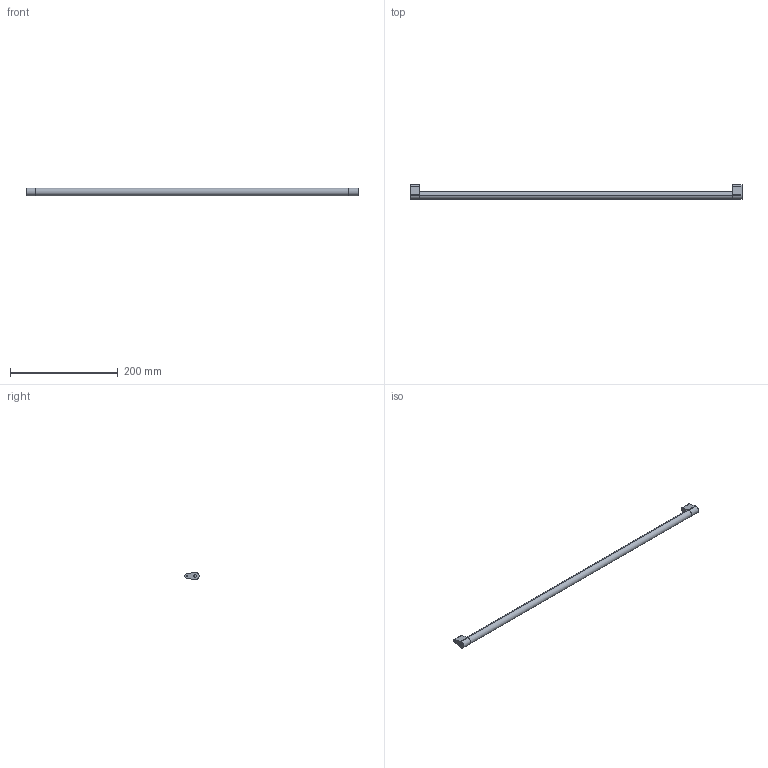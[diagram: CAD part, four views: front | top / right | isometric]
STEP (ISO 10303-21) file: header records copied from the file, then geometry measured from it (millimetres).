
FILE_DESCRIPTION (( 'STEP AP214' ), '1' );
FILE_NAME ('_Synchronisationseinheit Nova Pro KAB700_S16.step', '2010-07-08T13:58:31', ( 'grass' ), ( '' ), 'SwSTEP 2.0', 'SolidWorks 2010', '' );
FILE_SCHEMA (( 'AUTOMOTIVE_DESIGN' ));
Length unit declared in the file: millimetre
Products named in the file (1): _Synchronisationseinheit Nova Pro KAB700_S16
Bounding box: 615 x 26.5 x 14 mm (x, y, z)
Volume: 98358.7 mm3; surface area: 29896.1 mm2
Topology: 3 solids, 3 shells, 36 faces, 78 edges, 52 vertices
Faces by surface type: cylinder 18, plane 18
Entity records: 1050 total; most frequent: DIRECTION 188, CARTESIAN_POINT 167, ORIENTED_EDGE 156, EDGE_CURVE 78, AXIS2_PLACEMENT_3D 73, VERTEX_POINT 52, VECTOR 42, LINE 42
